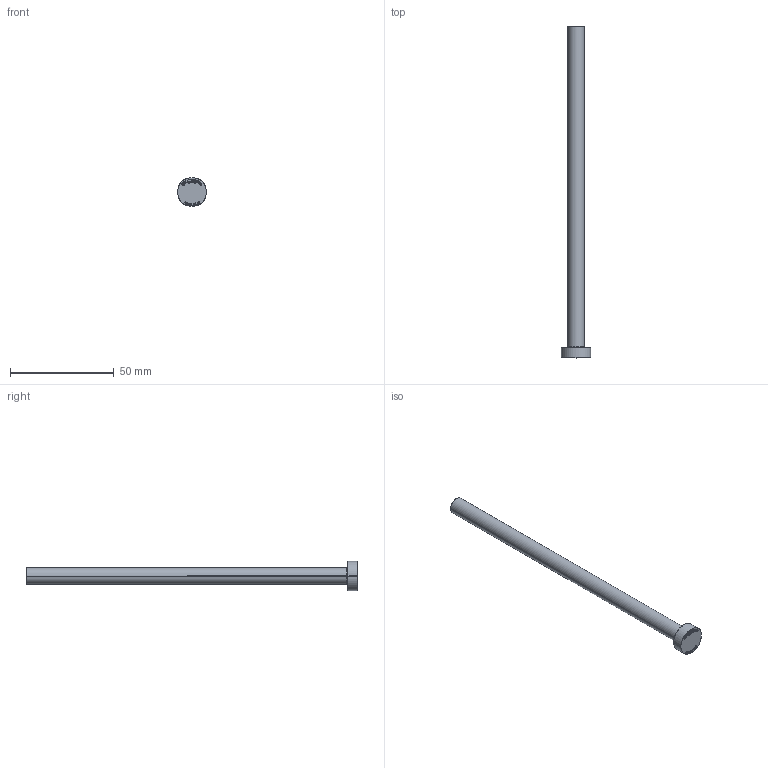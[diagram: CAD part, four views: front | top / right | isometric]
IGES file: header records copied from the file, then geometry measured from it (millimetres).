
Start section: SolidWorks IGES file using analytic representation for surfaces
Global section: file name: C:\Users\User\Downloads\Matripeça 31-08 tar\PB - PINO EXTRATOR TIPO _B_ (CATÁLOGO)\PB08,0\PB08,0160.IGS; native system: SolidWorks 2024; preprocessor: SolidWorks 2024; author: User; date: 260901.145553; units: millimetre
Bounding box: 14 x 160 x 14 mm (x, y, z)
Surface area: 4429.2 mm2 (no closed solid volume)
Topology: 0 solids, 0 shells, 404 faces, 3979 edges, 3979 vertices
Faces by surface type: bspline 390, revolution 14
